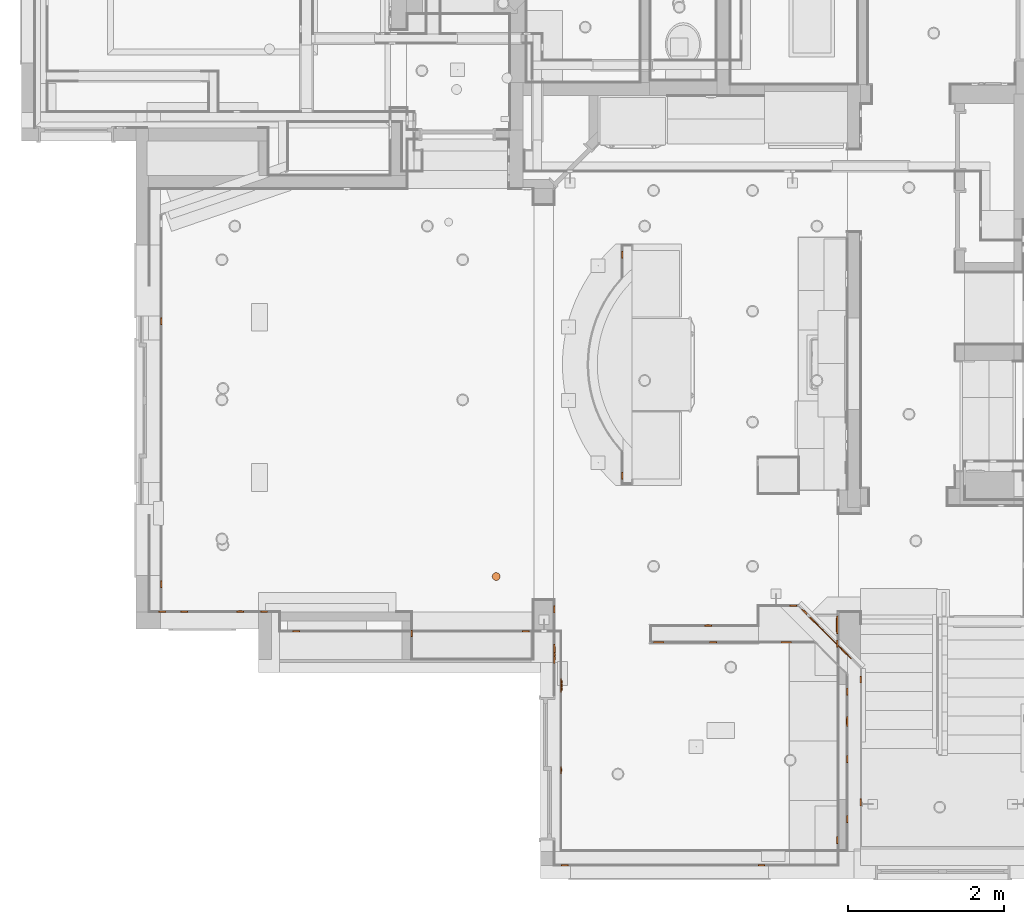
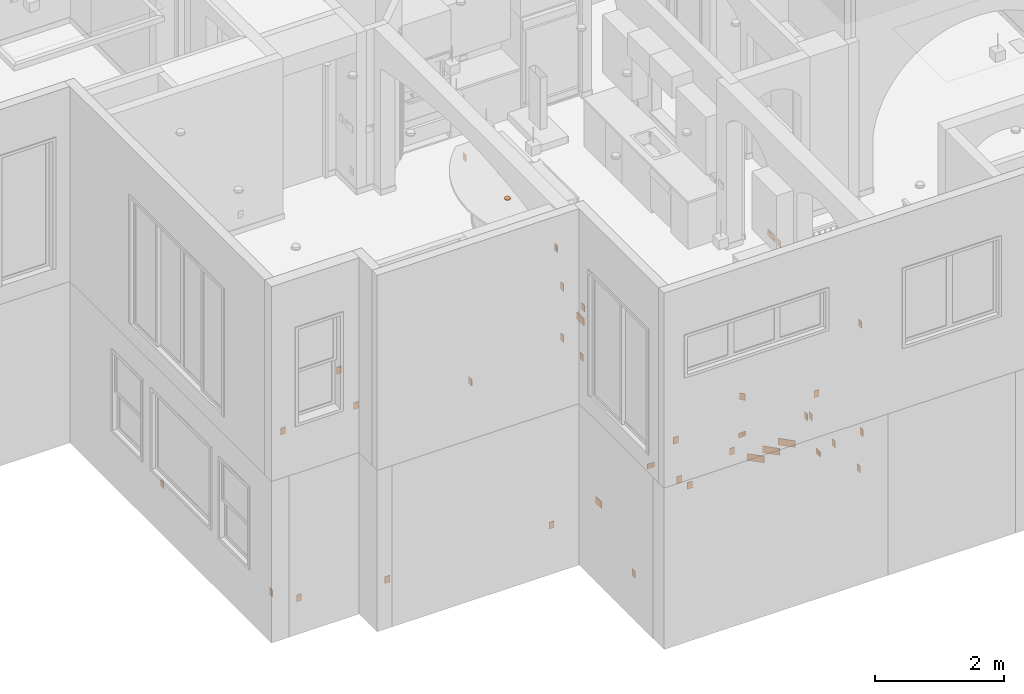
# One storey, part 52 of 60: 39 proxies.
"""IFC2X3 building model written with IfcOpenShell, lengths in feet."""

from ifc_helpers import new_model, entity, si_unit, converted_unit, direction, frame, frame_2d, origin, origin_2d_with_axis, place, context, subcontext, project, spatial, polyline, circle_curve, parameter, trimmed, segment, composite_curve, rectangle, circle, outline, extrude, source, transform, mapped, material, type_object, type_shapes, element, save


model = new_model("IFC2X3")

# Units and contexts
model_context = context("Model", 3, precision=0.0001, world=origin(), true_north=direction((6.123031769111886e-17, 1.0)))
plan_context = context("Plan", 3, precision=0.0001, world=origin(), true_north=direction((6.123031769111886e-17, 1.0)))
body_context = subcontext(model_context, "Body", "Model", "MODEL_VIEW")
ifc_project = project(units=[converted_unit("LENGTHUNIT", "FOOT", entity("IfcLengthMeasure", 0.3048), si_unit("LENGTHUNIT", "METRE"), dimensions=[1, 0, 0, 0, 0, 0, 0]), converted_unit("AREAUNIT", "SQUARE FOOT", entity("IfcAreaMeasure", 0.09290304), si_unit("AREAUNIT", "SQUARE_METRE"), dimensions=[2, 0, 0, 0, 0, 0, 0]), converted_unit("PLANEANGLEUNIT", "DEGREE", entity("IfcPlaneAngleMeasure", 0.017453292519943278), si_unit("PLANEANGLEUNIT", "RADIAN"), dimensions=[0, 0, 0, 0, 0, 0, 0])], contexts=[model_context, plan_context])

# Site, building, storey
site_placement = place(None, origin())
site = spatial("IfcSite", under=ifc_project, at=site_placement, Name="Default", CompositionType="ELEMENT")
building_placement = place(site_placement, origin())
building = spatial("IfcBuilding", under=site, at=building_placement, CompositionType="ELEMENT")
storey_placement = place(building_placement, origin())
storey = spatial("IfcBuildingStorey", under=building, at=storey_placement, Name="First floor", CompositionType="ELEMENT", Elevation=0.0)

# Proxies
ifc_material = material(Name="Default New Material")
building_element_proxy_type_1 = type_object("IfcBuildingElementProxyType", Name="switch 4:switch 4", PredefinedType="NOTDEFINED", material=ifc_material)
shared_shape_1 = source(origin(), body_context, "Body", "SweptSolid", [
    extrude(outline(composite_curve([segment(polyline([(-0.030916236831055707, -0.046587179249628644), (0.030916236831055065, -0.046587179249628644)]), True, "CONTINUOUS"), segment(trimmed(circle_curve(frame_2d((-0.00026496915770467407, 0.0), x_axis=(-1.0, 0.0)), 0.056059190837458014), [parameter(123.79474084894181)], [parameter(236.20525915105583)], True, "PARAMETER"), True, "CONTINUOUS"), segment(polyline([(0.030916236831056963, 0.04658717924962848), (-0.030916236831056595, 0.04658717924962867)]), True, "CONTINUOUS"), segment(trimmed(circle_curve(frame_2d((0.00026496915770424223, 0.0), x_axis=(-1.0, 0.0)), 0.056059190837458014), [parameter(303.79474084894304)], [parameter(56.2052591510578)], True, "PARAMETER"), True, "CONTINUOUS")], self_intersect=False), holes=[polyline([(0.01416238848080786, 0.027928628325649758), (0.026173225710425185, 0.02792862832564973), (0.026173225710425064, -0.006935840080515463), (0.01416238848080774, -0.006935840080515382), (0.01416238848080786, 0.027928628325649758)]), polyline([(-0.015270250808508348, 0.025046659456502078), (-0.015270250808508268, -0.004483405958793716), (-0.0278178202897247, -0.0044834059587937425), (-0.027817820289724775, 0.025046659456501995), (-0.015270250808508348, 0.025046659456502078)]), composite_curve([segment(polyline([(-0.01203154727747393, -0.041319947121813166), (-0.01203154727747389, -0.030018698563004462)]), True, "CONTINUOUS"), segment(trimmed(circle_curve(frame_2d((-0.00028489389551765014, -0.03001869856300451), x_axis=(-1.0, 0.0)), 0.011746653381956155), [parameter(180.00000000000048)], [parameter(3.5622212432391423e-13)], True, "PARAMETER"), False, "CONTINUOUS"), segment(polyline([(0.011461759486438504, -0.030018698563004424), (0.01146175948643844, -0.04131994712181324)]), True, "CONTINUOUS"), segment(polyline([(0.01146175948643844, -0.04131994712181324), (-0.01203154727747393, -0.041319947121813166)]), True, "CONTINUOUS")], self_intersect=False)]), frame((-0.0011190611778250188, 0.2703726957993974, 0.041666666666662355)), (0.0, 0.0, 1.0), 0.004209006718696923),
    extrude(outline(composite_curve([segment(polyline([(-0.030763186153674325, -0.04635654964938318), (0.030763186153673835, -0.04635654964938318)]), True, "CONTINUOUS"), segment(trimmed(circle_curve(frame_2d((-0.00026365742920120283, 0.0), x_axis=(-1.0, 0.0)), 0.05578167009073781), [parameter(123.79474084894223)], [parameter(236.20525915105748)], True, "PARAMETER"), True, "CONTINUOUS"), segment(polyline([(0.030763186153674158, 0.04635654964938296), (-0.030763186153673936, 0.04635654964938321)]), True, "CONTINUOUS"), segment(trimmed(circle_curve(frame_2d((0.0002636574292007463, 0.0), x_axis=(-1.0, 0.0)), 0.05578167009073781), [parameter(303.7947408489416)], [parameter(56.205259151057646)], True, "PARAMETER"), True, "CONTINUOUS")], self_intersect=False), holes=[polyline([(0.014092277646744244, 0.024722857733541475), (0.02604365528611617, 0.024722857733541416), (0.026043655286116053, -0.004727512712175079), (0.014092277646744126, -0.004727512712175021), (0.014092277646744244, 0.024722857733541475)]), polyline([(-0.01519465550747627, 0.024922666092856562), (-0.015194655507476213, -0.004461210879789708), (-0.027680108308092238, -0.00446121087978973), (-0.027680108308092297, 0.02492266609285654), (-0.01519465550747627, 0.024922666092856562)]), composite_curve([segment(polyline([(-0.011971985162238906, -0.04111539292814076), (-0.011971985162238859, -0.029870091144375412)]), True, "CONTINUOUS"), segment(trimmed(circle_curve(frame_2d((-0.00028348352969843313, -0.029870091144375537), x_axis=(-1.0, 0.0)), 0.011688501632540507), [parameter(179.9999999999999)], [parameter(0.0)], True, "PARAMETER"), False, "CONTINUOUS"), segment(polyline([(0.011405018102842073, -0.029870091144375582), (0.011405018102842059, -0.04111539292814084)]), True, "CONTINUOUS"), segment(polyline([(0.011405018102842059, -0.04111539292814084), (-0.011971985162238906, -0.04111539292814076)]), True, "CONTINUOUS")], self_intersect=False)]), frame((-0.0011190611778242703, 0.14560208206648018, 0.041666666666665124)), (0.0, 0.0, 1.0), 0.004209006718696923),
    extrude(rectangle(XDim=0.41666666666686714, YDim=0.2916666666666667, at=origin_2d_with_axis()), frame((0.0, 0.2083333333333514, 0.0), z_axis=(0.0, 0.0, 1.0), x_axis=(0.0, -1.0, 0.0)), (0.0, 0.0, 1.0), 0.041666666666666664),
])
type_shapes(building_element_proxy_type_1, [shared_shape_1])
for number, where, z_axis, x_axis, name in (
    (1, (-5.458333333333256, 10.312499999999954, 11.625002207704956), (1.0, 0.0, 0.0), (0.0, 1.0, 0.0), "switch 4:switch 4"),
    (2, (9.291666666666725, 0.541666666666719, 11.625000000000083), (0.0, 1.0, 0.0), (-1.0, 0.0, 0.0), "switch 4:switch 4"),
    (3, (1.020833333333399, 0.5416666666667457, 11.625000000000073), (0.0, 1.0, 0.0), (-1.0, 0.0, 0.0), "switch 4:switch 4"),
    (4, (0.5416666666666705, 9.354166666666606, 11.625000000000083), (1.0, 0.0, 0.0), (0.0, 1.0, 0.0), "switch 4:switch 4"),
    (5, (3.4583333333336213, 16.95833333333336, 12.79166666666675), (-1.0, 0.0, 0.0), (0.0, -1.0, 0.0), "switch 4:switch 4"),
    (6, (3.4583333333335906, 26.250000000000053, 12.79166666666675), (-1.0, 0.0, 0.0), (0.0, -1.0, 0.0), "switch 4:switch 4"),
    (7, (-16.0, 23.458333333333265, 0.9583355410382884), (1.0, 0.0, 0.0), (0.0, 1.0, 0.0), "switch 4:switch 4"),
    (8, (-16.0, 12.374999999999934, 0.9583355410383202), (1.0, 0.0, 0.0), (0.0, 1.0, 0.0), "switch 4:switch 4"),
    (9, (-15.0, 11.208333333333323, 0.9583355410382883), (0.0, 1.0, 0.0), (-1.0, 0.0, 0.0), "switch 4:switch 4"),
    (10, (-10.291666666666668, 10.375000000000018, 0.9583355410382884), (0.0, 1.0, 0.0), (-1.0, 0.0, 0.0), "switch 4:switch 4"),
    (11, (-0.6249999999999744, 10.374999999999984, 0.9583355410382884), (0.0, 1.0, 0.0), (-1.0, 0.0, 0.0), "switch 4:switch 4"),
    (12, (0.8333910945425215, 4.562499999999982, 0.9583355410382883), (1.0, 0.0, 0.0), (0.0, 1.0, 0.0), "switch 4:switch 4"),
    (13, (7.046411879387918, 10.625057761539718, 0.9583355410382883), (0.0, 1.0, 0.0), (-1.0, 0.0, 0.0), "switch 4:switch 4"),
    (14, (10.625018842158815, 11.458317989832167, 0.9583333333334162), (2.0991945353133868e-05, 1.0, 0.0), (-1.0, 2.0991945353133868e-05, 0.0), "switch 4:switch 4"),
):
    element("IfcBuildingElementProxy", number, at=place(storey_placement, frame(where, z_axis=z_axis, x_axis=x_axis)), inside=storey, type_object=building_element_proxy_type_1, material=ifc_material, Name=name, ObjectType="switch 4:switch 4", context=body_context, shape_type="MappedRepresentation", body=[
        mapped(shared_shape_1, transform((0.0, 0.0, 0.0), scale=1.0)),
    ])
building_element_proxy_type_2 = type_object("IfcBuildingElementProxyType", Name="switch 1:switch 1", PredefinedType="NOTDEFINED", material=ifc_material)
shared_shape_2 = source(origin(), body_context, "Body", "SweptSolid", [
    extrude(rectangle(XDim=0.29166666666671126, YDim=0.41666666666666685, at=frame_2d((0.0, 2.7755575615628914e-17), x_axis=(1.0, 0.0))), frame((0.0, 0.20833333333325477, 0.0)), (0.0, 0.0, 1.0), 0.041666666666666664),
])
type_shapes(building_element_proxy_type_2, [shared_shape_2])
for number, where, z_axis, x_axis, name in (
    (15, (-11.645833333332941, 11.208333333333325, 11.75000000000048), (0.0, 1.0, 0.0), (-1.0, 0.0, 0.0), "switch 1:switch 1"),
    (16, (-15.937499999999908, 11.208333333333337, 11.66666666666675), (0.0, 1.0, 0.0), (-1.0, 0.0, 0.0), "switch 1:switch 1"),
    (17, (13.458332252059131, 3.2083333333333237, 6.1666666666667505), (1.0, 0.0, 0.0), (0.0, 1.0, 0.0), "switch 1:switch 1"),
    (18, (13.458332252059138, 8.37500108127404, 4.0), (1.0, 0.0, 0.0), (0.0, 1.0, 0.0), "switch 1:switch 1"),
    (19, (0.5416666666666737, 11.333333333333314, 11.625000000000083), (1.0, 0.0, 0.0), (0.0, 1.0, 0.0), "switch 1:switch 1"),
    (20, (0.5416666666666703, 9.208333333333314, 14.79166666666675), (1.0, 0.0, 0.0), (0.0, 1.0, 0.0), "switch 1:switch 1"),
    (21, (0.5416666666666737, 11.333333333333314, 14.791666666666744), (1.0, 0.0, 0.0), (0.0, 1.0, 0.0), "switch 1:switch 1"),
    (22, (12.916665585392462, 2.5000000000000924, 4.5416666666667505), (-1.0, 0.0, 0.0), (0.0, -1.0, 0.0), "switch 1:switch 1"),
    (23, (12.916665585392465, 5.020833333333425, 4.541666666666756), (-1.0, 0.0, 0.0), (0.0, -1.0, 0.0), "switch 1:switch 1"),
    (24, (12.91666558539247, 7.8589687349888, 4.541666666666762), (-1.0, 0.0, 0.0), (0.0, -1.0, 0.0), "switch 1:switch 1"),
    (25, (7.254800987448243, 9.95839109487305, 0.9583333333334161), (0.0, -1.0, 0.0), (1.0, 0.0, 0.0), "switch 1:switch 1"),
):
    element("IfcBuildingElementProxy", number, at=place(storey_placement, frame(where, z_axis=z_axis, x_axis=x_axis)), inside=storey, type_object=building_element_proxy_type_2, material=ifc_material, Name=name, ObjectType="switch 1:switch 1", context=body_context, shape_type="MappedRepresentation", body=[
        mapped(shared_shape_2, transform((0.0, 0.0, 0.0), scale=1.0)),
    ])
building_element_proxy_type_3 = type_object("IfcBuildingElementProxyType", Name="switch 3:switch 3", PredefinedType="NOTDEFINED", material=ifc_material)
shared_shape_3 = source(origin(), body_context, "Body", "SweptSolid", [
    extrude(outline(polyline([(-0.10405409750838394, -0.0058649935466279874), (0.11210607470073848, -0.0058649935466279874), (0.11210607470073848, -0.0006525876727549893), (-0.02127056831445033, -0.0006525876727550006), (-0.09888748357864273, 0.013035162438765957), (-0.10405409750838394, -0.0058649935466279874)])), frame((-0.058349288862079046, 0.2099944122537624, 0.047531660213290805), z_axis=(1.0, 0.0, 0.0), x_axis=(0.0, 1.0, 0.0)), (0.0, 0.0, 1.0), 0.11669857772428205),
    extrude(rectangle(XDim=0.41666666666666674, YDim=0.2916666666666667, at=origin_2d_with_axis()), frame((0.0, 0.20833333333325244, 0.0), z_axis=(0.0, 0.0, 1.0), x_axis=(0.0, -1.0, 0.0)), (0.0, 0.0, 1.0), 0.041666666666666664),
])
type_shapes(building_element_proxy_type_3, [shared_shape_3])
for number, where, z_axis, x_axis, name in (
    (26, (-12.645833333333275, 11.208333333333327, 14.29166666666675), (0.0, 1.0, 0.0), (-1.0, 0.0, 0.0), "switch 3:switch 3"),
    (27, (11.08378670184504, 11.207879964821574, 4.333333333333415), (0.7071067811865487, 0.7071067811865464, 0.0), (-0.7071067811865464, 0.7071067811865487, 0.0), "switch 3:switch 3"),
):
    element("IfcBuildingElementProxy", number, at=place(storey_placement, frame(where, z_axis=z_axis, x_axis=x_axis)), inside=storey, type_object=building_element_proxy_type_3, material=ifc_material, Name=name, ObjectType="switch 3:switch 3", context=body_context, shape_type="MappedRepresentation", body=[
        mapped(shared_shape_3, transform((0.0, 0.0, 0.0), scale=1.0)),
    ])
building_element_proxy_type_4 = type_object("IfcBuildingElementProxyType", Name="switch 22:switch 22", PredefinedType="NOTDEFINED", material=ifc_material)
shared_shape_4 = source(origin(), body_context, "Body", "SweptSolid", [
    extrude(outline(polyline([(-0.1024795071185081, -0.006558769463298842), (0.11153581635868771, -0.006558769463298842), (0.11153581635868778, -0.00013120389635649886), (-0.02198831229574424, -0.00013120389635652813), (-0.09860381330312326, 0.013379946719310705), (-0.1024795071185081, -0.006558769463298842)])), frame((0.16096584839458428, 0.2062485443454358, 0.048225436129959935), z_axis=(1.0, 0.0, 0.0), x_axis=(0.0, 1.0, 0.0)), (0.0, 0.0, 1.0), 0.12240828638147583),
    extrude(outline(polyline([(-0.10247950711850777, -0.006558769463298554), (0.11153581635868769, -0.006558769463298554), (0.1115358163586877, -0.00013120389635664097), (-0.021988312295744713, -0.0001312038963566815), (-0.09860381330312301, 0.013379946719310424), (-0.10247950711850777, -0.006558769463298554)])), frame((0.015378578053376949, 0.20624854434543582, 0.048225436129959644), z_axis=(1.0, 0.0, 0.0), x_axis=(0.0, 1.0, 0.0)), (0.0, 0.0, 1.0), 0.12240828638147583),
    extrude(outline(polyline([(-0.025847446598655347, -0.09895516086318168), (-0.0058806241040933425, -0.09895516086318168), (-0.004558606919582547, -0.023119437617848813), (0.02129807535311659, 0.10990166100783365), (0.01498860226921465, 0.11112809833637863), (-0.025847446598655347, -0.09895516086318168)])), frame((-0.1342669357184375, 0.21445876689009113, 0.04815768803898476), z_axis=(1.0, 0.0, 0.0), x_axis=(0.0, -0.19080899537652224, 0.9816271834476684)), (0.0, 0.0, 1.0), 0.1224082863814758),
    extrude(outline(polyline([(-0.025847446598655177, -0.09895516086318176), (-0.005880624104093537, -0.09895516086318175), (-0.004558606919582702, -0.02311943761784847), (0.021298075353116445, 0.10990166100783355), (0.014988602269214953, 0.11112809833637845), (-0.025847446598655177, -0.09895516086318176)])), frame((-0.2819047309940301, 0.21445876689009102, 0.048157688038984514), z_axis=(1.0, 0.0, 0.0), x_axis=(0.0, -0.19080899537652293, 0.9816271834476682)), (0.0, 0.0, 1.0), 0.12240828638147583),
    extrude(rectangle(XDim=0.7500000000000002, YDim=0.4166666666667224, at=frame_2d((2.7755575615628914e-17, 2.7755575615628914e-17), x_axis=(1.0, 0.0))), frame((0.0, 0.2083333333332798, 0.0)), (0.0, 0.0, 1.0), 0.041666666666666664),
])
type_shapes(building_element_proxy_type_4, [shared_shape_4])
for number, where, z_axis, x_axis, name in (
    (28, (12.499999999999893, 10.66632150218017, 14.208333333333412), (-1.0, 0.0, 0.0), (0.0, -1.0, 0.0), "switch 22:switch 22"),
    (29, (0.5416666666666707, 9.479166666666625, 13.916666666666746), (1.0, 0.0, 0.0), (0.0, 1.0, 0.0), "switch 22:switch 22"),
):
    element("IfcBuildingElementProxy", number, at=place(storey_placement, frame(where, z_axis=z_axis, x_axis=x_axis)), inside=storey, type_object=building_element_proxy_type_4, material=ifc_material, Name=name, ObjectType="switch 22:switch 22", context=body_context, shape_type="MappedRepresentation", body=[
        mapped(shared_shape_4, transform((0.0, 0.0, 0.0), scale=1.0)),
    ])
building_element_proxy_type_5 = type_object("IfcBuildingElementProxyType", Name="Specialty Equipment_4:Specialty Equipment_4", PredefinedType="NOTDEFINED", material=ifc_material)
shared_shape_5 = source(origin(), body_context, "Body", "SweptSolid", [
    extrude(circle(Radius=0.16666666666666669, at=frame_2d((-1.3404011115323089e-17, -2.6925742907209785e-16), x_axis=(1.0, 0.0))), frame((0.0, 0.0, -0.04166666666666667)), (0.0, 0.0, 1.0), 0.04166666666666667),
])
type_shapes(building_element_proxy_type_5, [shared_shape_5])
proxy_1_placement = place(storey_placement, frame((-1.8749999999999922, 12.708333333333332, 20.541666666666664)))
element("IfcBuildingElementProxy", 30, at=proxy_1_placement, inside=storey, type_object=building_element_proxy_type_5, material=ifc_material, Name="Specialty Equipment_4:Specialty Equipment_4", ObjectType="Specialty Equipment_4:Specialty Equipment_4", context=body_context, shape_type="MappedRepresentation", body=[
    mapped(shared_shape_5, transform((0.0, 0.0, 0.0), scale=1.0)),
])
building_element_proxy_type_6 = type_object("IfcBuildingElementProxyType", Name="Generic Models 8:Generic Models 8", PredefinedType="NOTDEFINED", material=ifc_material)
shared_shape_6 = source(origin(), body_context, "Body", "SweptSolid", [
    extrude(rectangle(XDim=0.04166666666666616, YDim=0.9087035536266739, at=frame_2d((-1.2490009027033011e-15, 0.0), x_axis=(1.0, 0.0))), frame((11.583969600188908, 10.737159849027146, 0.6276041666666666), z_axis=(0.0, 0.0, 1.0), x_axis=(-0.7071067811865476, -0.7071067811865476, 0.0)), (0.0, 0.0, 1.0), 0.4166666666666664),
])
type_shapes(building_element_proxy_type_6, [shared_shape_6])
proxy_2_placement = place(storey_placement, origin())
element("IfcBuildingElementProxy", 31, at=proxy_2_placement, inside=storey, type_object=building_element_proxy_type_6, material=ifc_material, Name="Generic Models 8:Generic Models 8", ObjectType="Generic Models 8:Generic Models 8", context=body_context, shape_type="MappedRepresentation", body=[
    mapped(shared_shape_6, transform((0.0, 0.0, 0.0), scale=1.0)),
])
building_element_proxy_type_7 = type_object("IfcBuildingElementProxyType", Name="Generic Models 9:Generic Models 9", PredefinedType="NOTDEFINED", material=ifc_material)
shared_shape_7 = source(origin(), body_context, "Body", "SweptSolid", [
    extrude(rectangle(XDim=0.04166666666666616, YDim=0.908703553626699, at=frame_2d((-1.2628786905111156e-15, 0.0), x_axis=(1.0, 0.0))), frame((12.167594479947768, 10.153534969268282, 1.2552083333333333), z_axis=(0.0, 0.0, 1.0), x_axis=(-0.7071067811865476, -0.7071067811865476, 0.0)), (0.0, 0.0, 1.0), 0.4166666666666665),
])
type_shapes(building_element_proxy_type_7, [shared_shape_7])
proxy_3_placement = place(storey_placement, origin())
element("IfcBuildingElementProxy", 32, at=proxy_3_placement, inside=storey, type_object=building_element_proxy_type_7, material=ifc_material, Name="Generic Models 9:Generic Models 9", ObjectType="Generic Models 9:Generic Models 9", context=body_context, shape_type="MappedRepresentation", body=[
    mapped(shared_shape_7, transform((0.0, 0.0, 0.0), scale=1.0)),
])
building_element_proxy_type_8 = type_object("IfcBuildingElementProxyType", Name="Generic Models 10:Generic Models 10", PredefinedType="NOTDEFINED", material=ifc_material)
shared_shape_8 = source(origin(), body_context, "Body", "SweptSolid", [
    extrude(rectangle(XDim=0.04166666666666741, YDim=0.8943983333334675, at=frame_2d((-1.2490009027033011e-15, 0.0), x_axis=(1.0, 0.0))), frame((12.746161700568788, 9.57496774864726, 1.8828125), z_axis=(0.0, 0.0, 1.0), x_axis=(-0.7071067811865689, -0.7071067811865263, 0.0)), (0.0, 0.0, 1.0), 0.4166666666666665),
])
type_shapes(building_element_proxy_type_8, [shared_shape_8])
proxy_4_placement = place(storey_placement, origin())
element("IfcBuildingElementProxy", 33, at=proxy_4_placement, inside=storey, type_object=building_element_proxy_type_8, material=ifc_material, Name="Generic Models 10:Generic Models 10", ObjectType="Generic Models 10:Generic Models 10", context=body_context, shape_type="MappedRepresentation", body=[
    mapped(shared_shape_8, transform((0.0, 0.0, 0.0), scale=1.0)),
])
building_element_proxy_type_9 = type_object("IfcBuildingElementProxyType", Name="switch 24:switch 24", PredefinedType="NOTDEFINED", material=ifc_material)
shared_shape_9 = source(origin(), body_context, "Body", "SweptSolid", [
    extrude(outline(composite_curve([segment(trimmed(circle_curve(frame_2d((-0.0002636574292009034, 0.0), x_axis=(1.0, 0.0)), 0.05578167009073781), [parameter(303.79474084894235)], [parameter(56.20525915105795)], True, "PARAMETER"), True, "CONTINUOUS"), segment(polyline([(0.030763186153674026, 0.046356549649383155), (-0.03076318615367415, 0.046356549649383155)]), True, "CONTINUOUS"), segment(trimmed(circle_curve(frame_2d((0.0002636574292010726, 0.0), x_axis=(1.0, 0.0)), 0.05578167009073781), [parameter(123.79474084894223)], [parameter(236.20525915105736)], True, "PARAMETER"), True, "CONTINUOUS"), segment(polyline([(-0.03076318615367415, -0.046356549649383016), (0.03076318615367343, -0.04635654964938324)]), True, "CONTINUOUS")], self_intersect=False), holes=[polyline([(-0.014092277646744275, 0.024722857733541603), (-0.014092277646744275, -0.00472751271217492), (-0.026043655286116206, -0.004727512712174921), (-0.026043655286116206, 0.024722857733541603), (-0.014092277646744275, 0.024722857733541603)]), polyline([(0.015194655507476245, 0.024922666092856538), (0.02768010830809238, 0.024922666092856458), (0.0276801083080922, -0.004461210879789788), (0.015194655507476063, -0.004461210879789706), (0.015194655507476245, 0.024922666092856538)]), composite_curve([segment(polyline([(0.011971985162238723, -0.04111539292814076), (-0.011405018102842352, -0.04111539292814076)]), True, "CONTINUOUS"), segment(polyline([(-0.011405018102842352, -0.04111539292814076), (-0.011405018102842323, -0.02987009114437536)]), True, "CONTINUOUS"), segment(trimmed(circle_curve(frame_2d((0.0002834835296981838, -0.0298700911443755), x_axis=(1.0, 0.0)), 0.011688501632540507), [parameter(0.0)], [parameter(179.99999999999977)], True, "PARAMETER"), False, "CONTINUOUS"), segment(polyline([(0.011971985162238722, -0.029870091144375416), (0.011971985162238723, -0.04111539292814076)]), True, "CONTINUOUS")], self_intersect=False)]), frame((-0.0011190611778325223, 0.2210532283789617, 0.04166666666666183)), (0.0, 0.0, 1.0), 0.004209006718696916),
    extrude(rectangle(XDim=0.29166666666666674, YDim=0.41666666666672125, at=origin_2d_with_axis()), frame((0.0, 0.20833333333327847, 0.0)), (0.0, 0.0, 1.0), 0.041666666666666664),
])
type_shapes(building_element_proxy_type_9, [shared_shape_9])
for number, where, z_axis, x_axis, name in (
    (34, (12.499999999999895, 9.874654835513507, 14.208333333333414), (-1.0, 0.0, 0.0), (0.0, -1.0, 0.0), "switch 24:switch 24"),
    (35, (12.499999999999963, 1.604166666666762, 14.208333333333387), (-1.0, 0.0, 0.0), (0.0, -1.0, 0.0), "switch 24:switch 24"),
):
    element("IfcBuildingElementProxy", number, at=place(storey_placement, frame(where, z_axis=z_axis, x_axis=x_axis)), inside=storey, type_object=building_element_proxy_type_9, material=ifc_material, Name=name, ObjectType="switch 24:switch 24", context=body_context, shape_type="MappedRepresentation", body=[
        mapped(shared_shape_9, transform((0.0, 0.0, 0.0), scale=1.0)),
    ])
building_element_proxy_type_10 = type_object("IfcBuildingElementProxyType", Name="switch 20:switch 20", PredefinedType="NOTDEFINED", material=ifc_material)
shared_shape_10 = source(origin(), body_context, "Body", "SweptSolid", [
    extrude(outline(polyline([(-0.10768152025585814, -0.007272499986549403), (0.1105040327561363, -0.007272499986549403), (0.11050403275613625, -0.0006226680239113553), (-0.010127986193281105, -0.0006226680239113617), (-0.1031985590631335, 0.015790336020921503), (-0.10768152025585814, -0.007272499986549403)])), frame((0.09414358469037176, 0.21700099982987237, 0.0489391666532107), z_axis=(1.0, 0.0, 0.0), x_axis=(0.0, 1.0, 0.0)), (0.0, 0.0, 1.0), 0.11070220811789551),
    extrude(outline(polyline([(-0.02766749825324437, -0.10426700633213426), (-0.00421586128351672, -0.10426700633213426), (-0.0025728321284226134, -0.010016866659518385), (0.020491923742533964, 0.1086410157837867), (0.013964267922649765, 0.10990986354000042), (-0.02766749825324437, -0.10426700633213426)])), frame((-0.05877778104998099, 0.2186611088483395, 0.04893075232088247), z_axis=(1.0, 0.0, 0.0), x_axis=(0.0, -0.19080899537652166, 0.9816271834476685)), (0.0, 0.0, 1.0), 0.11070220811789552),
    extrude(outline(polyline([(-0.027667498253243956, -0.10426700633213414), (-0.004215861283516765, -0.10426700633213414), (-0.0025728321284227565, -0.010016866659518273), (0.020491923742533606, 0.10864101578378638), (0.01396426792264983, 0.10990986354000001), (-0.027667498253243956, -0.10426700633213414)])), frame((-0.20641557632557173, 0.21866110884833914, 0.0489307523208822), z_axis=(1.0, 0.0, 0.0), x_axis=(0.0, -0.19080899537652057, 0.9816271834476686)), (0.0, 0.0, 1.0), 0.11070220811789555),
    extrude(rectangle(XDim=0.5833333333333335, YDim=0.4166666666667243, at=frame_2d((0.0, -2.7755575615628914e-17), x_axis=(1.0, 0.0))), frame((0.0, 0.20833333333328, 0.0)), (0.0, 0.0, 1.0), 0.041666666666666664),
])
type_shapes(building_element_proxy_type_10, [shared_shape_10])
proxy_5_placement = place(storey_placement, frame((0.8333910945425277, 8.124999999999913, 3.208333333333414), z_axis=(1.0, 0.0, 0.0), x_axis=(0.0, 1.0, 0.0)))
element("IfcBuildingElementProxy", 36, at=proxy_5_placement, inside=storey, type_object=building_element_proxy_type_10, material=ifc_material, Name="switch 20:switch 20", ObjectType="switch 20:switch 20", context=body_context, shape_type="MappedRepresentation", body=[
    mapped(shared_shape_10, transform((0.0, 0.0, 0.0), scale=1.0)),
])
building_element_proxy_type_11 = type_object("IfcBuildingElementProxyType", Name="switch 15:switch 15", PredefinedType="NOTDEFINED", material=ifc_material)
shared_shape_11 = source(origin(), body_context, "Body", "SweptSolid", [
    extrude(outline(composite_curve([segment(polyline([(-0.030916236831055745, -0.04658717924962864), (0.030916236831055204, -0.04658717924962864)]), True, "CONTINUOUS"), segment(trimmed(circle_curve(frame_2d((-0.0002649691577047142, 0.0), x_axis=(-1.0, 0.0)), 0.056059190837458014), [parameter(123.79474084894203)], [parameter(236.20525915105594)], True, "PARAMETER"), True, "CONTINUOUS"), segment(polyline([(0.030916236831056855, 0.046587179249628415), (-0.030916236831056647, 0.04658717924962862)]), True, "CONTINUOUS"), segment(trimmed(circle_curve(frame_2d((0.0002649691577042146, 0.0), x_axis=(-1.0, 0.0)), 0.056059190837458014), [parameter(303.79474084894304)], [parameter(56.205259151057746)], True, "PARAMETER"), True, "CONTINUOUS")], self_intersect=False), holes=[polyline([(0.014162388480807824, 0.02792862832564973), (0.02617322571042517, 0.02792862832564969), (0.026173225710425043, -0.00693584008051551), (0.014162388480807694, -0.006935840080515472), (0.014162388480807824, 0.02792862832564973)]), polyline([(-0.015270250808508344, 0.025046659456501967), (-0.015270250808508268, -0.0044834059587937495), (-0.0278178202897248, -0.004483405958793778), (-0.02781782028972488, 0.025046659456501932), (-0.015270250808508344, 0.025046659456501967)]), composite_curve([segment(polyline([(-0.01203154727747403, -0.041319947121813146), (-0.012031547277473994, -0.03001869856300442)]), True, "CONTINUOUS"), segment(trimmed(circle_curve(frame_2d((-0.00028489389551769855, -0.030018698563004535), x_axis=(-1.0, 0.0)), 0.011746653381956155), [parameter(179.9999999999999)], [parameter(0.0)], True, "PARAMETER"), False, "CONTINUOUS"), segment(polyline([(0.01146175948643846, -0.030018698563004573), (0.011461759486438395, -0.041319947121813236)]), True, "CONTINUOUS"), segment(polyline([(0.011461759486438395, -0.041319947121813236), (-0.01203154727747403, -0.041319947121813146)]), True, "CONTINUOUS")], self_intersect=False)]), frame((-0.06250062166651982, 0.1354596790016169, 0.041666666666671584), z_axis=(0.0, 0.0, 1.0), x_axis=(0.0, 1.0, 0.0)), (0.0, 0.0, 1.0), 0.004209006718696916),
    extrude(outline(composite_curve([segment(polyline([(-0.030763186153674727, -0.04635654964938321), (0.030763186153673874, -0.04635654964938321)]), True, "CONTINUOUS"), segment(trimmed(circle_curve(frame_2d((-0.0002636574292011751, 0.0), x_axis=(-1.0, 0.0)), 0.05578167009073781), [parameter(123.79474084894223)], [parameter(236.20525915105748)], True, "PARAMETER"), True, "CONTINUOUS"), segment(polyline([(0.030763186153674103, 0.046356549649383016), (-0.03076318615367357, 0.04635654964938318)]), True, "CONTINUOUS"), segment(trimmed(circle_curve(frame_2d((0.000263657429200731, 0.0), x_axis=(-1.0, 0.0)), 0.05578167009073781), [parameter(303.7947408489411)], [parameter(56.205259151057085)], True, "PARAMETER"), True, "CONTINUOUS")], self_intersect=False), holes=[polyline([(0.014092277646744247, 0.024722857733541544), (0.026043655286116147, 0.024722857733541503), (0.026043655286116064, -0.00472751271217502), (0.014092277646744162, -0.004727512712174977), (0.014092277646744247, 0.024722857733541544)]), polyline([(-0.01519465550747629, 0.024922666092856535), (-0.015194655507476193, -0.004461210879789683), (-0.027680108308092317, -0.00446121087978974), (-0.027680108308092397, 0.024922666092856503), (-0.01519465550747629, 0.024922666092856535)]), composite_curve([segment(polyline([(-0.011971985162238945, -0.04111539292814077), (-0.011971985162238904, -0.029870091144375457)]), True, "CONTINUOUS"), segment(trimmed(circle_curve(frame_2d((-0.00028348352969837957, -0.029870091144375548), x_axis=(-1.0, 0.0)), 0.011688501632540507), [parameter(180.00000000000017)], [parameter(0.0)], True, "PARAMETER"), False, "CONTINUOUS"), segment(polyline([(0.01140501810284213, -0.029870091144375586), (0.011405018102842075, -0.04111539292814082)]), True, "CONTINUOUS"), segment(polyline([(0.011405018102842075, -0.04111539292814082), (-0.011971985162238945, -0.04111539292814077)]), True, "CONTINUOUS")], self_intersect=False)]), frame((0.06226999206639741, 0.13545967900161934, 0.041666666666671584), z_axis=(0.0, 0.0, 1.0), x_axis=(0.0, 1.0, 0.0)), (0.0, 0.0, 1.0), 0.004209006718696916),
    extrude(rectangle(XDim=0.41666666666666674, YDim=0.29166666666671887, at=origin_2d_with_axis()), frame((0.0, 0.14583333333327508, 0.0), z_axis=(0.0, 0.0, 1.0), x_axis=(-1.0, 0.0, 0.0)), (0.0, 0.0, 1.0), 0.04166666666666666),
])
type_shapes(building_element_proxy_type_11, [shared_shape_11])
for number, where, z_axis, x_axis, name in (
    (37, (10.33805469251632, 9.95832401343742, 3.08333333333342), (-2.0991945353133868e-05, -1.0, 0.0), (1.0, -2.0991945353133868e-05, 0.0), "switch 15:switch 15"),
    (38, (4.963134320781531, 9.958391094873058, 3.0416666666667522), (0.0, -1.0, 0.0), (1.0, 0.0, 0.0), "switch 15:switch 15"),
    (39, (12.916665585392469, 6.6089687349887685, 3.0833333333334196), (-1.0, 0.0, 0.0), (0.0, -1.0, 0.0), "switch 15:switch 15"),
):
    element("IfcBuildingElementProxy", number, at=place(storey_placement, frame(where, z_axis=z_axis, x_axis=x_axis)), inside=storey, type_object=building_element_proxy_type_11, material=ifc_material, Name=name, ObjectType="switch 15:switch 15", context=body_context, shape_type="MappedRepresentation", body=[
        mapped(shared_shape_11, transform((0.0, 0.0, 0.0), scale=1.0)),
    ])

save(model, "model.ifc")
